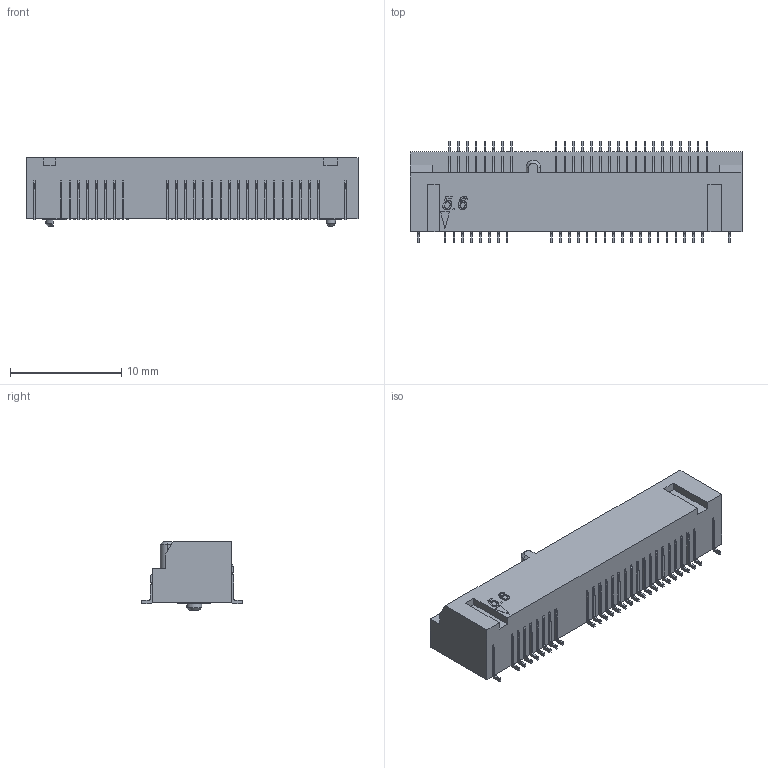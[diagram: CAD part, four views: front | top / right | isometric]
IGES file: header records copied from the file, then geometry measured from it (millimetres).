
Start section: SolidWorks IGES file using analytic representation for surfaces
Global section: file name: C:\Documents and Settings\Administrator\桌面\MINIPCIE6003-Rt52Gf.IGS,1; native system: 5HSolidWorks 2008; preprocessor: SolidWorks 2008; author: Administrator; date: 131115.134707; units: millimetre
Bounding box: 29.9 x 9.1 x 6.22 mm (x, y, z)
Surface area: 1090.2 mm2 (no closed solid volume)
Topology: 0 solids, 0 shells, 1544 faces, 11314 edges, 11314 vertices
Faces by surface type: bspline 1078, revolution 466
